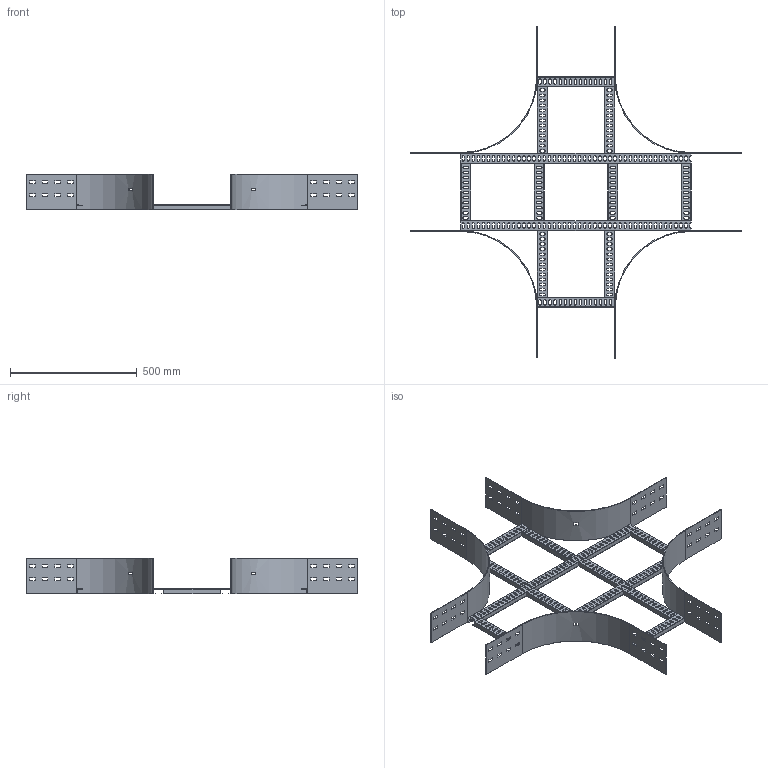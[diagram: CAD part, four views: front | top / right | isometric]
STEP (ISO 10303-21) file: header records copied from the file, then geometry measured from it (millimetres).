
FILE_DESCRIPTION(/* description */ ('','CAx-IF Rec.Pracs.---Representation and Presentation of Product Manufacturing Information (PMI)---4.0---2014-10-13'),/* implementation_level */ '2;1');
FILE_NAME(/* name */ 'Eurostrut_ECO150-300-300_Crossover for Cable Ladder ECL.step',/* time_stamp */ '2026-09-03T13:34:55+02:00',/* author */ (''),/* organization */ (''),/* preprocessor_version */ 'ST-DEVELOPER v20.1',/* originating_system */ 'Autodesk Revit 2027 27.2.0.39',/* authorisation */ '');
FILE_SCHEMA (('AP242_MANAGED_MODEL_BASED_3D_ENGINEERING_MIM_LF { 1 0 10303 442 2 1 4 }'));
Length unit declared in the file: millimetre
Products named in the file (10): TopLevelAssembly; Sweep; Sweep_1; Sweep_2; Sweep_3; Eurostrut_Cable Ladder_Rung_With slots; Eurostrut_Cable Ladder_Rung_With slots_1; Eurostrut_Cable Ladder_Rung Array Straight_Slotted; Eurostrut_Cable Ladder_Rung Array Straight_Slotted_1; Eurostrut_Cable Ladder_Accessory End_54-94-142
Assembly tree (19 placements, depth 2):
  TopLevelAssembly
    Sweep
    Sweep_1
    Eurostrut_Cable Ladder_Rung_With slots  x2
    Eurostrut_Cable Ladder_Rung_With slots_1  x2
    Sweep_2
    Sweep_3
    Eurostrut_Cable Ladder_Rung Array Straight_Slotted
    Eurostrut_Cable Ladder_Rung Array Straight_Slotted_1  x2
    Eurostrut_Cable Ladder_Accessory End_54-94-142  x8
Bounding box: 1311 x 1311 x 142 mm (x, y, z)
Volume: 1976906.1 mm3; surface area: 1755058.8 mm2
Topology: 24 solids, 24 shells, 1432 faces, 4152 edges, 2768 vertices
Faces by surface type: plane 940, bspline 436, cylinder 56
Entity records: 32770 total; most frequent: CARTESIAN_POINT 12433, ORIENTED_EDGE 4320, DIRECTION 3806, EDGE_CURVE 2160, LINE 1540, VECTOR 1540, VERTEX_POINT 1440, AXIS2_PLACEMENT_3D 1133
